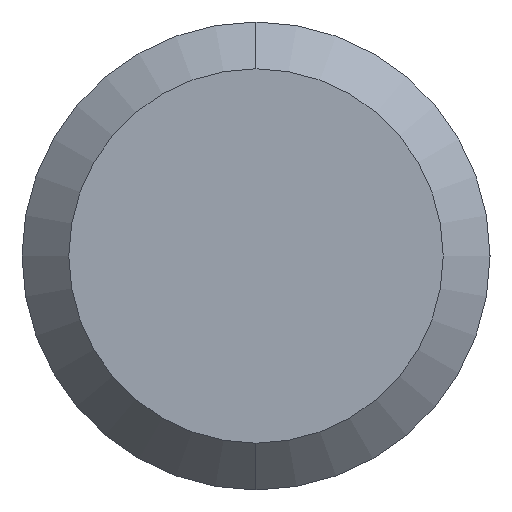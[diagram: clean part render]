
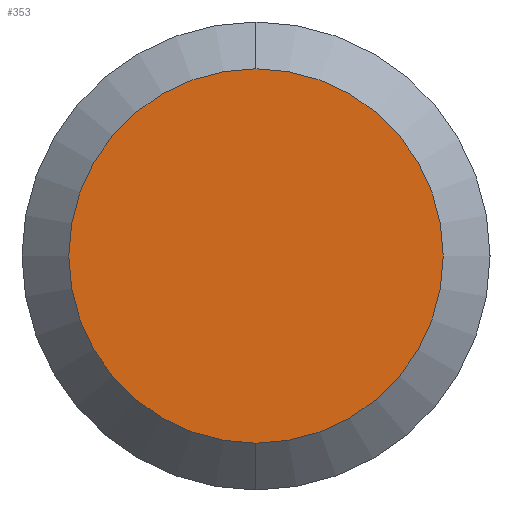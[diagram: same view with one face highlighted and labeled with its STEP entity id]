
A CAD part, left-side view. The second image highlights one B-rep face of the part: STEP entity #353.
In plain terms, the highlighted planar face has unit normal (-1, 0, 0).
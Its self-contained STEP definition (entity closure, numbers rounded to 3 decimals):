
#65 = EDGE_CURVE ( 'NONE', #478, #122, #480, .T. ) ;
#86 = DIRECTION ( 'NONE',  ( -1., 0., 0. ) ) ;
#90 = ORIENTED_EDGE ( 'NONE', *, *, #65, .T. ) ;
#93 = AXIS2_PLACEMENT_3D ( 'NONE', #400, #86, #231 ) ;
#94 = CIRCLE ( 'NONE', #93, 2. ) ;
#100 = AXIS2_PLACEMENT_3D ( 'NONE', #195, #437, #463 ) ;
#111 = CARTESIAN_POINT ( 'NONE',  ( -24.25, 0., 2. ) ) ;
#122 = VERTEX_POINT ( 'NONE', #111 ) ;
#130 = CARTESIAN_POINT ( 'NONE',  ( -24.25, 0., -2. ) ) ;
#195 = CARTESIAN_POINT ( 'NONE',  ( -24.25, 0., 0. ) ) ;
#209 = DIRECTION ( 'NONE',  ( 0., 0., -1. ) ) ;
#220 = EDGE_LOOP ( 'NONE', ( #90, #459 ) ) ;
#231 = DIRECTION ( 'NONE',  ( 0., 0., -1. ) ) ;
#353 = ADVANCED_FACE ( 'NONE', ( #522 ), #393, .F. ) ;
#365 = AXIS2_PLACEMENT_3D ( 'NONE', #535, #452, #209 ) ;
#393 = PLANE ( 'NONE',  #100 ) ;
#400 = CARTESIAN_POINT ( 'NONE',  ( -24.25, 0., 0. ) ) ;
#422 = EDGE_CURVE ( 'NONE', #122, #478, #94, .T. ) ;
#437 = DIRECTION ( 'NONE',  ( 1., 0., 0. ) ) ;
#452 = DIRECTION ( 'NONE',  ( -1., 0., 0. ) ) ;
#459 = ORIENTED_EDGE ( 'NONE', *, *, #422, .T. ) ;
#463 = DIRECTION ( 'NONE',  ( 0., 0., -1. ) ) ;
#478 = VERTEX_POINT ( 'NONE', #130 ) ;
#480 = CIRCLE ( 'NONE', #365, 2. ) ;
#522 = FACE_OUTER_BOUND ( 'NONE', #220, .T. ) ;
#535 = CARTESIAN_POINT ( 'NONE',  ( -24.25, 0., 0. ) ) ;
